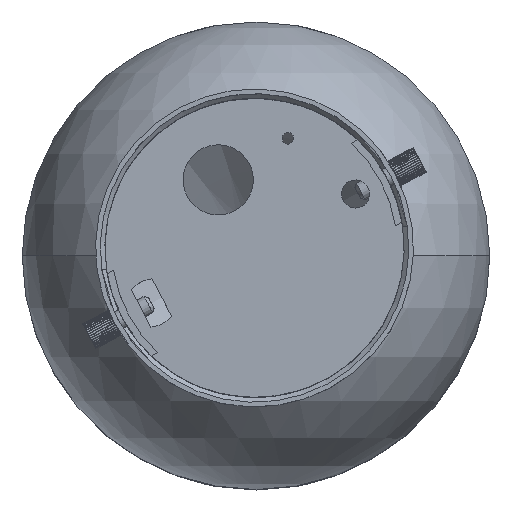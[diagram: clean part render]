
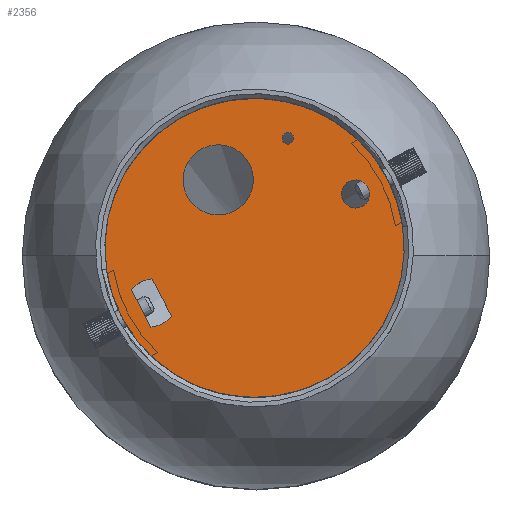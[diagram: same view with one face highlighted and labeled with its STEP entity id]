
A CAD part, top view. The second image highlights one B-rep face of the part: STEP entity #2356.
In plain terms, the highlighted planar face has unit normal (0, 0, 1).
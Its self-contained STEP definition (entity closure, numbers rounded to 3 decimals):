
#156 = AXIS2_PLACEMENT_3D ( 'NONE', #1340, #7489, #19778 ) ;
#166 = CARTESIAN_POINT ( 'NONE',  ( -23.001, -3.467, 1089.677 ) ) ;
#176 = CARTESIAN_POINT ( 'NONE',  ( 8.786, 22.205, 1089.677 ) ) ;
#481 = DIRECTION ( 'NONE',  ( 0., 0., 1. ) ) ;
#648 = CARTESIAN_POINT ( 'NONE',  ( -24.621, -13.634, 1089.677 ) ) ;
#1223 = CARTESIAN_POINT ( 'NONE',  ( -5.962, 15.505, 1089.677 ) ) ;
#1340 = CARTESIAN_POINT ( 'NONE',  ( -24.324, -7.141, 1089.677 ) ) ;
#1426 = CIRCLE ( 'NONE', #17831, 7.5 ) ;
#1494 = ORIENTED_EDGE ( 'NONE', *, *, #4027, .F. ) ;
#1581 = ORIENTED_EDGE ( 'NONE', *, *, #9605, .T. ) ;
#1685 = EDGE_LOOP ( 'NONE', ( #1904, #1494 ) ) ;
#1697 = CARTESIAN_POINT ( 'NONE',  ( -27.699, -5.177, 1089.677 ) ) ;
#1904 = ORIENTED_EDGE ( 'NONE', *, *, #19585, .F. ) ;
#2042 = CIRCLE ( 'NONE', #3970, 1.25 ) ;
#2356 = ADVANCED_FACE ( 'NONE', ( #5879, #6282, #10604, #5985, #12023 ), #12312, .T. ) ;
#2408 = VECTOR ( 'NONE', #15336, 1000. ) ;
#2424 = DIRECTION ( 'NONE',  ( 0., 0., -1. ) ) ;
#2447 = EDGE_CURVE ( 'NONE', #5062, #4995, #8845, .T. ) ;
#2514 = DIRECTION ( 'NONE',  ( 0.94, 0.342, 0. ) ) ;
#3686 = LINE ( 'NONE', #10290, #7744 ) ;
#3922 = AXIS2_PLACEMENT_3D ( 'NONE', #8479, #13324, #8779 ) ;
#3944 = EDGE_CURVE ( 'NONE', #10300, #4995, #11894, .T. ) ;
#3970 = AXIS2_PLACEMENT_3D ( 'NONE', #5536, #10169, #2514 ) ;
#4027 = EDGE_CURVE ( 'NONE', #8828, #18675, #10412, .T. ) ;
#4684 = DIRECTION ( 'NONE',  ( 0., 0., 1. ) ) ;
#4695 = EDGE_CURVE ( 'NONE', #6118, #8824, #11005, .T. ) ;
#4703 = CIRCLE ( 'NONE', #7259, 32. ) ;
#4995 = VERTEX_POINT ( 'NONE', #14559 ) ;
#5062 = VERTEX_POINT ( 'NONE', #648 ) ;
#5536 = CARTESIAN_POINT ( 'NONE',  ( 10.036, 22.205, 1089.677 ) ) ;
#5582 = ORIENTED_EDGE ( 'NONE', *, *, #4695, .F. ) ;
#5860 = DIRECTION ( 'NONE',  ( 0.94, 0.342, 0. ) ) ;
#5879 = FACE_BOUND ( 'NONE', #18829, .T. ) ;
#5985 = FACE_BOUND ( 'NONE', #16144, .T. ) ;
#6118 = VERTEX_POINT ( 'NONE', #8841 ) ;
#6143 = EDGE_LOOP ( 'NONE', ( #9972, #15823 ) ) ;
#6282 = FACE_BOUND ( 'NONE', #7760, .T. ) ;
#6287 = AXIS2_PLACEMENT_3D ( 'NONE', #1223, #7365, #5860 ) ;
#6414 = VERTEX_POINT ( 'NONE', #176 ) ;
#6544 = ORIENTED_EDGE ( 'NONE', *, *, #8258, .F. ) ;
#6631 = DIRECTION ( 'NONE',  ( 0.94, 0.342, 0. ) ) ;
#7259 = AXIS2_PLACEMENT_3D ( 'NONE', #13094, #2424, #16212 ) ;
#7365 = DIRECTION ( 'NONE',  ( 0., 0., 1. ) ) ;
#7489 = DIRECTION ( 'NONE',  ( 0., 0., 1. ) ) ;
#7744 = VECTOR ( 'NONE', #9824, 1000. ) ;
#7760 = EDGE_LOOP ( 'NONE', ( #1581, #8550, #16803, #15952 ) ) ;
#7902 = CIRCLE ( 'NONE', #6287, 7.5 ) ;
#8142 = CARTESIAN_POINT ( 'NONE',  ( 22.704, 8.379, 1089.677 ) ) ;
#8258 = EDGE_CURVE ( 'NONE', #8824, #6118, #17683, .T. ) ;
#8479 = CARTESIAN_POINT ( 'NONE',  ( -23.298, -9.96, 1089.677 ) ) ;
#8550 = ORIENTED_EDGE ( 'NONE', *, *, #13774, .F. ) ;
#8759 = AXIS2_PLACEMENT_3D ( 'NONE', #8142, #481, #6631 ) ;
#8779 = DIRECTION ( 'NONE',  ( 0.046, 0.999, 0. ) ) ;
#8824 = VERTEX_POINT ( 'NONE', #17806 ) ;
#8828 = VERTEX_POINT ( 'NONE', #19209 ) ;
#8841 = CARTESIAN_POINT ( 'NONE',  ( 19.704, 8.379, 1089.677 ) ) ;
#8845 = CIRCLE ( 'NONE', #156, 6.5 ) ;
#9094 = VERTEX_POINT ( 'NONE', #13766 ) ;
#9191 = DIRECTION ( 'NONE',  ( 0.94, 0.342, 0. ) ) ;
#9605 = EDGE_CURVE ( 'NONE', #5062, #14048, #3686, .T. ) ;
#9824 = DIRECTION ( 'NONE',  ( -0.342, 0.94, 0. ) ) ;
#9972 = ORIENTED_EDGE ( 'NONE', *, *, #19340, .F. ) ;
#10010 = ORIENTED_EDGE ( 'NONE', *, *, #15412, .F. ) ;
#10169 = DIRECTION ( 'NONE',  ( 0., 0., 1. ) ) ;
#10290 = CARTESIAN_POINT ( 'NONE',  ( -26.16, -9.406, 1089.677 ) ) ;
#10300 = VERTEX_POINT ( 'NONE', #166 ) ;
#10316 = CARTESIAN_POINT ( 'NONE',  ( 31.682, 0., 1089.677 ) ) ;
#10412 = CIRCLE ( 'NONE', #12659, 32. ) ;
#10604 = FACE_BOUND ( 'NONE', #6143, .T. ) ;
#11005 = CIRCLE ( 'NONE', #8759, 3. ) ;
#11081 = DIRECTION ( 'NONE',  ( 0., 0., 1. ) ) ;
#11894 = LINE ( 'NONE', #12197, #2408 ) ;
#12023 = FACE_OUTER_BOUND ( 'NONE', #1685, .T. ) ;
#12147 = DIRECTION ( 'NONE',  ( 0.94, 0.342, 0. ) ) ;
#12197 = CARTESIAN_POINT ( 'NONE',  ( -21.462, -7.695, 1089.677 ) ) ;
#12289 = VERTEX_POINT ( 'NONE', #14112 ) ;
#12312 = PLANE ( 'NONE',  #14314 ) ;
#12597 = CIRCLE ( 'NONE', #3922, 6.5 ) ;
#12659 = AXIS2_PLACEMENT_3D ( 'NONE', #16540, #13815, #9191 ) ;
#12699 = CARTESIAN_POINT ( 'NONE',  ( 22.704, 8.379, 1089.677 ) ) ;
#13094 = CARTESIAN_POINT ( 'NONE',  ( -0.318, 0., 1089.677 ) ) ;
#13324 = DIRECTION ( 'NONE',  ( 0., 0., 1. ) ) ;
#13640 = DIRECTION ( 'NONE',  ( 1., 0., 0. ) ) ;
#13766 = CARTESIAN_POINT ( 'NONE',  ( 1.538, 15.505, 1089.677 ) ) ;
#13774 = EDGE_CURVE ( 'NONE', #10300, #14048, #12597, .T. ) ;
#13815 = DIRECTION ( 'NONE',  ( 0., 0., -1. ) ) ;
#13964 = CARTESIAN_POINT ( 'NONE',  ( 11.286, 22.205, 1089.677 ) ) ;
#14048 = VERTEX_POINT ( 'NONE', #1697 ) ;
#14112 = CARTESIAN_POINT ( 'NONE',  ( -13.462, 15.505, 1089.677 ) ) ;
#14314 = AXIS2_PLACEMENT_3D ( 'NONE', #18175, #4684, #13640 ) ;
#14497 = CARTESIAN_POINT ( 'NONE',  ( 10.036, 22.205, 1089.677 ) ) ;
#14559 = CARTESIAN_POINT ( 'NONE',  ( -19.922, -11.924, 1089.677 ) ) ;
#14610 = DIRECTION ( 'NONE',  ( 0., 0., 1. ) ) ;
#15173 = CARTESIAN_POINT ( 'NONE',  ( -5.962, 15.505, 1089.677 ) ) ;
#15336 = DIRECTION ( 'NONE',  ( 0.342, -0.94, 0. ) ) ;
#15412 = EDGE_CURVE ( 'NONE', #18312, #6414, #2042, .T. ) ;
#15823 = ORIENTED_EDGE ( 'NONE', *, *, #18240, .F. ) ;
#15952 = ORIENTED_EDGE ( 'NONE', *, *, #2447, .F. ) ;
#16144 = EDGE_LOOP ( 'NONE', ( #6544, #5582 ) ) ;
#16212 = DIRECTION ( 'NONE',  ( 0.94, 0.342, 0. ) ) ;
#16540 = CARTESIAN_POINT ( 'NONE',  ( -0.318, 0., 1089.677 ) ) ;
#16803 = ORIENTED_EDGE ( 'NONE', *, *, #3944, .T. ) ;
#17426 = DIRECTION ( 'NONE',  ( 0.94, 0.342, 0. ) ) ;
#17683 = CIRCLE ( 'NONE', #19617, 3. ) ;
#17726 = DIRECTION ( 'NONE',  ( 0.94, 0.342, 0. ) ) ;
#17806 = CARTESIAN_POINT ( 'NONE',  ( 25.704, 8.379, 1089.677 ) ) ;
#17831 = AXIS2_PLACEMENT_3D ( 'NONE', #15173, #19809, #12147 ) ;
#18175 = CARTESIAN_POINT ( 'NONE',  ( -42.154, 19.508, 1089.677 ) ) ;
#18240 = EDGE_CURVE ( 'NONE', #12289, #9094, #1426, .T. ) ;
#18312 = VERTEX_POINT ( 'NONE', #13964 ) ;
#18675 = VERTEX_POINT ( 'NONE', #10316 ) ;
#18829 = EDGE_LOOP ( 'NONE', ( #10010, #19366 ) ) ;
#18853 = AXIS2_PLACEMENT_3D ( 'NONE', #14497, #14610, #17726 ) ;
#19209 = CARTESIAN_POINT ( 'NONE',  ( -32.318, 0., 1089.677 ) ) ;
#19340 = EDGE_CURVE ( 'NONE', #9094, #12289, #7902, .T. ) ;
#19366 = ORIENTED_EDGE ( 'NONE', *, *, #19593, .F. ) ;
#19483 = CIRCLE ( 'NONE', #18853, 1.25 ) ;
#19585 = EDGE_CURVE ( 'NONE', #18675, #8828, #4703, .T. ) ;
#19593 = EDGE_CURVE ( 'NONE', #6414, #18312, #19483, .T. ) ;
#19617 = AXIS2_PLACEMENT_3D ( 'NONE', #12699, #11081, #17426 ) ;
#19778 = DIRECTION ( 'NONE',  ( -0.046, -0.999, 0. ) ) ;
#19809 = DIRECTION ( 'NONE',  ( 0., 0., 1. ) ) ;
